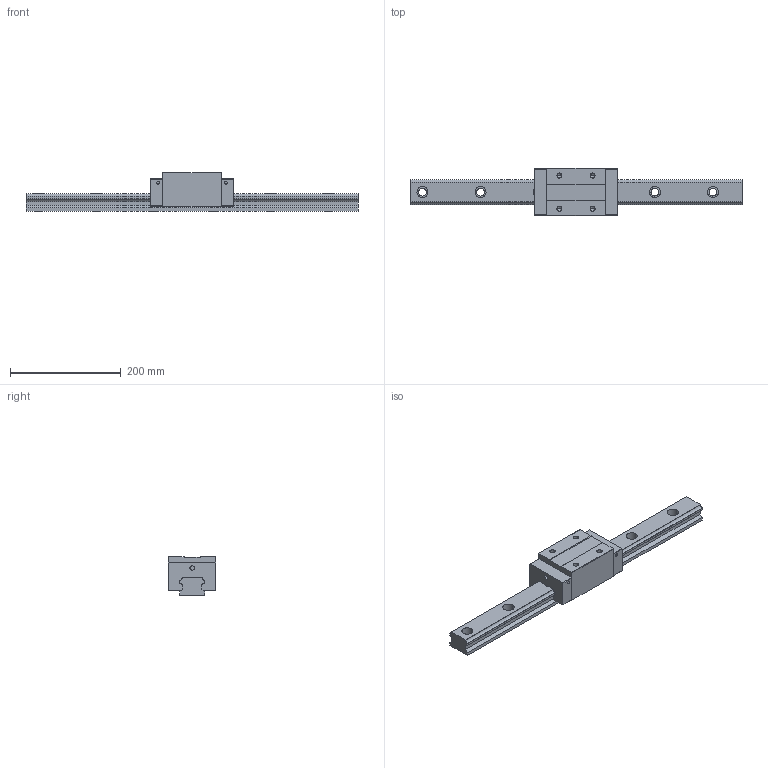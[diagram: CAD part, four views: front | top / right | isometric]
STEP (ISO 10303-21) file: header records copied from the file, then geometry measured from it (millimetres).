
FILE_DESCRIPTION (( 'STEP AP203' ), '1' );
FILE_NAME ('TRH45VL-WW.STEP', '2024-05-16T06:53:57', ( '' ), ( '' ), 'SwSTEP 2.0', 'SolidWorks 2022', '' );
FILE_SCHEMA (( 'CONFIG_CONTROL_DESIGN' ));
Length unit declared in the file: millimetre
Products named in the file (1): TRH45VL-WW
Bounding box: 600 x 85.5 x 70 mm (x, y, z)
Volume: 1315629 mm3; surface area: 169220.7 mm2
Topology: 2 solids, 2 shells, 180 faces, 472 edges, 304 vertices
Faces by surface type: plane 84, cylinder 80, cone 16
Entity records: 5607 total; most frequent: DIRECTION 994, CARTESIAN_POINT 949, ORIENTED_EDGE 928, EDGE_CURVE 464, AXIS2_PLACEMENT_3D 349, VERTEX_POINT 304, LINE 296, VECTOR 296
